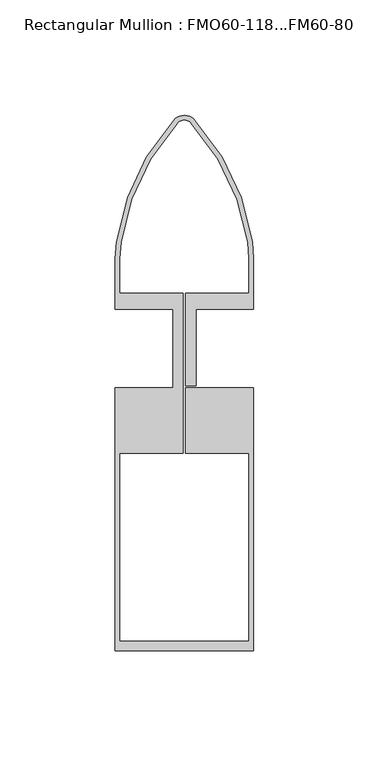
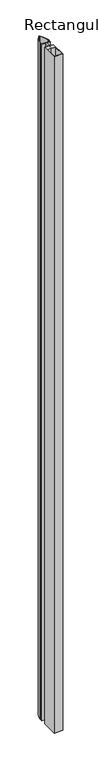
"""IFC4 building model written with IfcOpenShell, lengths in millimetres: member geometry, Rectangular Mullion : FMO60-118...FM60-80."""

from ifc_helpers import new_model, si_unit, frame, origin, place, context, project, spatial, polyline, circle_curve, source, transform, mapped, element, save
from ifc_brep_helpers import plane_surface, cylinder_surface, revolved_surface, advanced_brep


def rectangular_mullion_fmo60_118_fm60_80_52852f34(model_context):
    return source(origin(), model_context, "Body", "AdvancedBrep", [
        advanced_brep(
        [(4.7233463, 98.6502996, 0.0), (0.0, 100.9502996, 0.0), (-4.7233463, 98.6502996, 0.0), (-29.4612692, 46.2333488, 0.0), (-30.0, 38.9133183, 0.0), (-30.0, 17.0, 0.0), (-5.0, 17.0, 0.0), (-5.0, -17.0, 0.0), (-30.0, -17.0, 0.0), (-30.0, -131.009342, 0.0), (30.0, -131.009342, 0.0), (30.0, -17.0, 0.0), (0.5, -17.0, 0.0), (0.5, -45.5034642, 0.0), (28.0, -45.5034642, 0.0), (28.0, -127.009342, 0.0), (-28.0, -127.009342, 0.0), (-28.0, -45.5034642, 0.0), (-0.5, -45.5034642, 0.0), (-0.5, 23.8476589, 0.0), (-28.0000412, 23.8476589, 0.0), (-28.0000412, 38.9133183, 0.0), (-27.4828185, 45.9405476, 0.0), (-3.1488975, 97.4169663, 0.0), (0.0, 98.9502996, 0.0), (3.1488975, 97.4169663, 0.0), (27.4828185, 45.9405476, 0.0), (28.0, 38.9133183, 0.0), (28.0, 23.8476589, 0.0), (0.5, 23.8476589, 0.0), (0.5, -16.2, 0.0), (5.0, -16.2, 0.0), (5.0, 17.0, 0.0), (30.0, 17.0, 0.0), (30.0, 38.9133183, 0.0), (29.4612692, 46.2333488, 0.0), (4.7233463, 98.6502996, -5000.0), (29.4612692, 46.2333488, -5000.0), (30.0, 38.9133183, -5000.0), (30.0, 17.0, -5000.0), (5.0, 17.0, -5000.0), (5.0, -16.2, -5000.0), (0.5, -16.2, -5000.0), (0.5, 23.8476589, -5000.0), (28.0, 23.8476589, -5000.0), (28.0, 38.9133183, -5000.0), (27.4828185, 45.9405476, -5000.0), (3.1488975, 97.4169663, -5000.0), (0.0, 98.9502996, -5000.0), (-3.1488975, 97.4169663, -5000.0), (-27.4828185, 45.9405476, -5000.0), (-28.0, 38.9133183, -5000.0), (-28.0000412, 23.8476589, -5000.0), (-0.5, 23.8476589, -5000.0), (-0.5, -45.5034642, -5000.0), (-28.0, -45.5034642, -5000.0), (-28.0, -127.009342, -5000.0), (28.0, -127.009342, -5000.0), (28.0, -45.5034642, -5000.0), (0.5, -45.5034642, -5000.0), (0.5, -17.0, -5000.0), (30.0, -17.0, -5000.0), (30.0, -131.009342, -5000.0), (-30.0, -131.009342, -5000.0), (-30.0, -17.0, -5000.0), (-5.0, -17.0, -5000.0), (-5.0, 17.0, -5000.0), (-30.0, 17.0, -5000.0), (-30.0, 38.9133183, -5000.0), (-29.4612692, 46.2333488, -5000.0), (-4.7233463, 98.6502996, -5000.0), (0.0, 100.9502996, -5000.0)],
        [
            (0, 1, circle_curve(frame((0.0, 94.9502996, 0.0), z_axis=(0.0, 0.0, 1.0), x_axis=(0.7872243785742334, 0.616666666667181, 0.0)), 6.0)),
            (1, 2, circle_curve(frame((0.0, 94.9502996, 0.0), z_axis=(0.0, 0.0, 1.0), x_axis=(0.0, 1.0, 0.0)), 6.0)),
            (2, 3, circle_curve(frame((69.4612692, 31.5932879, 0.0), z_axis=(0.0, 0.0, 1.0), x_axis=(-0.7418461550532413, 0.6705701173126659, 0.0)), 100.0)),
            (3, 4, circle_curve(frame((20.0, 38.9133183, 0.0), z_axis=(0.0, 0.0, 1.0), x_axis=(-0.9892253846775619, 0.14640060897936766, 0.0)), 50.0)),
            (4, 5),
            (5, 6),
            (6, 7),
            (7, 8),
            (8, 9),
            (9, 10),
            (10, 11),
            (11, 12),
            (12, 13),
            (13, 14),
            (14, 15),
            (15, 16),
            (16, 17),
            (17, 18),
            (18, 19),
            (19, 20),
            (20, 21),
            (21, 22, circle_curve(frame((20.0, 38.9133183, 0.0), z_axis=(0.0, 0.0, -1.0), x_axis=(-1.0, 0.0, 0.0)), 48.0)),
            (22, 23, circle_curve(frame((69.5179996, 31.5761151, 0.0), z_axis=(0.0, 0.0, -1.0), x_axis=(-0.9892124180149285, 0.14648819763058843, 0.0)), 98.0586336)),
            (23, 24, circle_curve(frame((0.0, 94.9502996, 0.0), z_axis=(0.0, 0.0, -1.0), x_axis=(-0.7872243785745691, 0.6166666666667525, 0.0)), 4.0)),
            (24, 25, circle_curve(frame((0.0, 94.9502996, 0.0), z_axis=(0.0, 0.0, -1.0), x_axis=(0.0, 1.0, 0.0)), 4.0)),
            (25, 26, circle_curve(frame((-69.5179996, 31.5761151, 0.0), z_axis=(0.0, 0.0, -1.0), x_axis=(0.7410555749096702, 0.6714436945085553, 0.0)), 98.0586336)),
            (26, 27, circle_curve(frame((-20.0, 38.9133183, 0.0), z_axis=(0.0, 0.0, -1.0), x_axis=(0.9892253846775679, 0.1464006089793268, 0.0)), 48.0)),
            (27, 28),
            (28, 29),
            (29, 30),
            (30, 31),
            (31, 32),
            (32, 33),
            (33, 34),
            (34, 35, circle_curve(frame((-20.0, 38.9133183, 0.0), z_axis=(0.0, 0.0, 1.0), x_axis=(1.0, 0.0, 0.0)), 50.0)),
            (35, 0, circle_curve(frame((-69.4612692, 31.5932879, 0.0), z_axis=(0.0, 0.0, 1.0), x_axis=(0.9892253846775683, 0.14640060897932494, 0.0)), 100.0)),
            (36, 37, circle_curve(frame((-69.4612692, 31.5932879, -5000.0), z_axis=(0.0, 0.0, -1.0), x_axis=(0.9892253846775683, 0.14640060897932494, 0.0)), 100.0)),
            (37, 38, circle_curve(frame((-20.0, 38.9133183, -5000.0), z_axis=(0.0, 0.0, -1.0), x_axis=(1.0, 0.0, 0.0)), 50.0)),
            (38, 39),
            (39, 40),
            (40, 41),
            (41, 42),
            (42, 43),
            (43, 44),
            (44, 45),
            (45, 46, circle_curve(frame((-20.0, 38.9133183, -5000.0), z_axis=(0.0, 0.0, 1.0), x_axis=(0.9892253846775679, 0.1464006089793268, 0.0)), 48.0)),
            (46, 47, circle_curve(frame((-69.5179996, 31.5761151, -5000.0), z_axis=(0.0, 0.0, 1.0), x_axis=(0.7410555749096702, 0.6714436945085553, 0.0)), 98.0586336)),
            (47, 48, circle_curve(frame((0.0, 94.9502996, -5000.0), z_axis=(0.0, 0.0, 1.0), x_axis=(0.0, 1.0, 0.0)), 4.0)),
            (48, 49, circle_curve(frame((0.0, 94.9502996, -5000.0), z_axis=(0.0, 0.0, 1.0), x_axis=(-0.7872243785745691, 0.6166666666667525, 0.0)), 4.0)),
            (49, 50, circle_curve(frame((69.5179996, 31.5761151, -5000.0), z_axis=(0.0, 0.0, 1.0), x_axis=(-0.9892124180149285, 0.14648819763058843, 0.0)), 98.0586336)),
            (50, 51, circle_curve(frame((20.0, 38.9133183, -5000.0), z_axis=(0.0, 0.0, 1.0), x_axis=(-1.0, 0.0, 0.0)), 48.0)),
            (51, 52),
            (52, 53),
            (53, 54),
            (54, 55),
            (55, 56),
            (56, 57),
            (57, 58),
            (58, 59),
            (59, 60),
            (60, 61),
            (61, 62),
            (62, 63),
            (63, 64),
            (64, 65),
            (65, 66),
            (66, 67),
            (67, 68),
            (68, 69, circle_curve(frame((20.0, 38.9133183, -5000.0), z_axis=(0.0, 0.0, -1.0), x_axis=(-0.9892253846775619, 0.14640060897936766, 0.0)), 50.0)),
            (69, 70, circle_curve(frame((69.4612692, 31.5932879, -5000.0), z_axis=(0.0, 0.0, -1.0), x_axis=(-0.7418461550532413, 0.6705701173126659, 0.0)), 100.0)),
            (70, 71, circle_curve(frame((0.0, 94.9502996, -5000.0), z_axis=(0.0, 0.0, -1.0), x_axis=(0.0, 1.0, 0.0)), 6.0)),
            (71, 36, circle_curve(frame((0.0, 94.9502996, -5000.0), z_axis=(0.0, 0.0, -1.0), x_axis=(0.7872243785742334, 0.616666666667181, 0.0)), 6.0)),
            (0, 36),
            (71, 1),
            (70, 2),
            (69, 3),
            (68, 4),
            (67, 5),
            (66, 6),
            (65, 7),
            (64, 8),
            (63, 9),
            (62, 10),
            (61, 11),
            (60, 12),
            (59, 13),
            (58, 14),
            (57, 15),
            (56, 16),
            (55, 17),
            (54, 18),
            (53, 19),
            (52, 20),
            (51, 21),
            (50, 22),
            (49, 23),
            (48, 24),
            (47, 25),
            (46, 26),
            (45, 27),
            (44, 28),
            (43, 29),
            (42, 30),
            (41, 31),
            (40, 32),
            (39, 33),
            (38, 34),
            (37, 35),
        ],
        [
            plane_surface(frame((0.0, -134.4003263, 0.0), z_axis=(0.0, 0.0, 1.0), x_axis=(-1.0, 0.0, 0.0))),
            plane_surface(frame((0.0, -134.4003263, -5000.0), z_axis=(0.0, 0.0, -1.0), x_axis=(-1.0, 0.0, 0.0))),
            cylinder_surface(frame((0.0, 94.9502996, 0.0), z_axis=(0.0, 0.0, 1.0), x_axis=(0.7872243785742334, 0.616666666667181, 0.0)), 6.0),
            cylinder_surface(frame((0.0, 94.9502996, 0.0), z_axis=(0.0, 0.0, 1.0), x_axis=(0.0, 1.0, 0.0)), 6.0),
            cylinder_surface(frame((69.4612692, 31.5932879, 0.0), z_axis=(0.0, 0.0, 1.0000000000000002), x_axis=(-0.7418461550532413, 0.6705701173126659, 0.0)), 100.0),
            cylinder_surface(frame((20.0, 38.9133183, 0.0), z_axis=(0.0, 0.0, 1.0), x_axis=(-0.9892253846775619, 0.14640060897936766, 0.0)), 50.0),
            plane_surface(frame((-30.0, 38.9133183, 0.0), z_axis=(-1.0, 0.0, 0.0), x_axis=(0.0, 0.0, -1.0))),
            plane_surface(frame((-30.0, 17.0, 0.0), z_axis=(0.0, -1.0, 0.0), x_axis=(0.0, 0.0, -1.0))),
            plane_surface(frame((-5.0, 17.0, 0.0), z_axis=(-1.0, 0.0, 0.0), x_axis=(0.0, 0.0, -1.0))),
            plane_surface(frame((-5.0, -17.0, 0.0), z_axis=(0.0, 1.0, 0.0), x_axis=(0.0, 0.0, -1.0))),
            plane_surface(frame((-30.0, -17.0, 0.0), z_axis=(-1.0, 0.0, 0.0), x_axis=(0.0, 0.0, -1.0))),
            plane_surface(frame((-30.0, -131.009342, 0.0), z_axis=(0.0, -1.0, 0.0), x_axis=(0.0, 0.0, -1.0))),
            plane_surface(frame((30.0, -131.009342, 0.0), z_axis=(1.0, 0.0, 0.0), x_axis=(0.0, 0.0, -1.0))),
            plane_surface(frame((30.0, -17.0, 0.0), z_axis=(0.0, 1.0, 0.0), x_axis=(0.0, 0.0, -1.0))),
            plane_surface(frame((0.5, -17.0, 0.0), z_axis=(-1.0, 0.0, 0.0), x_axis=(0.0, 0.0, -1.0))),
            plane_surface(frame((0.5, -45.5034642, 0.0), z_axis=(0.0, -1.0, 0.0), x_axis=(0.0, 0.0, -1.0))),
            plane_surface(frame((28.0, -45.5034642, 0.0), z_axis=(-1.0, 0.0, 0.0), x_axis=(0.0, 0.0, -1.0))),
            plane_surface(frame((28.0, -127.009342, 0.0), z_axis=(0.0, 1.0, 0.0), x_axis=(0.0, 0.0, -1.0))),
            plane_surface(frame((-28.0, -127.009342, 0.0), z_axis=(1.0, 0.0, 0.0), x_axis=(0.0, 0.0, -1.0))),
            plane_surface(frame((-28.0, -45.5034642, 0.0), z_axis=(0.0, -1.0, 0.0), x_axis=(0.0, 0.0, -1.0))),
            plane_surface(frame((-0.5, -45.5034642, 0.0), z_axis=(1.0, 0.0, 0.0), x_axis=(0.0, 0.0, -1.0))),
            plane_surface(frame((-0.5, 23.8476589, 0.0), z_axis=(0.0, 1.0, 0.0), x_axis=(0.0, 0.0, -1.0))),
            plane_surface(frame((-28.0000412, 23.8476589, 0.0), z_axis=(1.0, 0.0, 0.0), x_axis=(0.0, 0.0, -1.0))),
            revolved_surface(polyline([(-28.0, 38.9133183, -5000.0), (-28.0, 38.9133183, 0.0)]), (20.0, 38.9133183, 0.0), (0.0, 0.0, -1.0)),
            revolved_surface(polyline([(-27.482818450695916, 45.940547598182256, -5000.0), (-27.482818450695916, 45.940547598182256, 0.0)]), (69.5179996, 31.5761151, 0.0), (0.0, 0.0, -1.0)),
            revolved_surface(polyline([(-3.1488975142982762, 97.416966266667, -5000.000000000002), (-3.1488975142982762, 97.416966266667, 0.0)]), (0.0, 94.9502996, 0.0), (0.0, 0.0, -1.0000000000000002)),
            revolved_surface(polyline([(0.0, 98.9502996, -5000.0), (0.0, 98.9502996, 0.0)]), (0.0, 94.9502996, 0.0), (0.0, 0.0, -1.0)),
            revolved_surface(polyline([(3.148897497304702, 97.41696632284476, -5000.0), (3.148897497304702, 97.41696632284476, 0.0)]), (-69.5179996, 31.5761151, 0.0), (0.0, 0.0, -1.0)),
            revolved_surface(polyline([(27.482818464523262, 45.94054753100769, -5000.0), (27.482818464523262, 45.94054753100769, 0.0)]), (-20.0, 38.9133183, 0.0), (0.0, 0.0, -1.0)),
            plane_surface(frame((28.0, 38.9133183, 0.0), z_axis=(-1.0, 0.0, 0.0), x_axis=(0.0, 0.0, -1.0))),
            plane_surface(frame((28.0, 23.8476589, 0.0), z_axis=(0.0, 1.0, 0.0), x_axis=(0.0, 0.0, -1.0))),
            plane_surface(frame((0.5, 23.8476589, 0.0), z_axis=(-1.0, 0.0, 0.0), x_axis=(0.0, 0.0, -1.0))),
            plane_surface(frame((0.5, -16.2, 0.0), z_axis=(0.0, -1.0, 0.0), x_axis=(0.0, 0.0, -1.0))),
            plane_surface(frame((5.0, -16.2, 0.0), z_axis=(1.0, 0.0, 0.0), x_axis=(0.0, 0.0, -1.0))),
            plane_surface(frame((5.0, 17.0, 0.0), z_axis=(0.0, -1.0, 0.0), x_axis=(0.0, 0.0, -1.0))),
            plane_surface(frame((30.0, 17.0, 0.0), z_axis=(1.0, 0.0, 0.0), x_axis=(0.0, 0.0, -1.0))),
            cylinder_surface(frame((-20.0, 38.9133183, 0.0), z_axis=(0.0, 0.0, 1.0), x_axis=(1.0, 0.0, 0.0)), 50.0),
            cylinder_surface(frame((-69.4612692, 31.5932879, 0.0), z_axis=(0.0, 0.0, 1.0), x_axis=(0.9892253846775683, 0.14640060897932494, 0.0)), 100.0),
        ],
        [
            (0, [[1, 2, 3, 4, 5, 6, 7, 8, 9, 10, 11, 12, 13, 14, 15, 16, 17, 18, 19, 20, 21, 22, 23, 24, 25, 26, 27, 28, 29, 30, 31, 32, 33, 34, 35, 36]]),
            (1, [[37, 38, 39, 40, 41, 42, 43, 44, 45, 46, 47, 48, 49, 50, 51, 52, 53, 54, 55, 56, 57, 58, 59, 60, 61, 62, 63, 64, 65, 66, 67, 68, 69, 70, 71, 72]]),
            (2, [[-1, 73, -72, 74]]),
            (3, [[-2, -74, -71, 75]]),
            (4, [[-3, -75, -70, 76]]),
            (5, [[-4, -76, -69, 77]]),
            (6, [[-5, -77, -68, 78]]),
            (7, [[-6, -78, -67, 79]]),
            (8, [[-7, -79, -66, 80]]),
            (9, [[-8, -80, -65, 81]]),
            (10, [[-9, -81, -64, 82]]),
            (11, [[-10, -82, -63, 83]]),
            (12, [[-11, -83, -62, 84]]),
            (13, [[-12, -84, -61, 85]]),
            (14, [[-13, -85, -60, 86]]),
            (15, [[-14, -86, -59, 87]]),
            (16, [[-15, -87, -58, 88]]),
            (17, [[-16, -88, -57, 89]]),
            (18, [[-17, -89, -56, 90]]),
            (19, [[-18, -90, -55, 91]]),
            (20, [[-19, -91, -54, 92]]),
            (21, [[-20, -92, -53, 93]]),
            (22, [[-21, -93, -52, 94]]),
            (23, [[-22, -94, -51, 95]]),
            (24, [[-23, -95, -50, 96]]),
            (25, [[-24, -96, -49, 97]]),
            (26, [[-25, -97, -48, 98]]),
            (27, [[-26, -98, -47, 99]]),
            (28, [[-27, -99, -46, 100]]),
            (29, [[-28, -100, -45, 101]]),
            (30, [[-29, -101, -44, 102]]),
            (31, [[-30, -102, -43, 103]]),
            (32, [[-31, -103, -42, 104]]),
            (33, [[-32, -104, -41, 105]]),
            (34, [[-33, -105, -40, 106]]),
            (35, [[-34, -106, -39, 107]]),
            (36, [[-35, -107, -38, 108]]),
            (37, [[-36, -108, -37, -73]]),
        ],
    ),
    ])


if __name__ == "__main__":
    model = new_model("IFC4")
    model_context = context("Model", 3, world=origin())
    ifc_project = project(units=[si_unit("LENGTHUNIT", "METRE", prefix="MILLI")], contexts=[model_context])
    site = spatial("IfcSite", under=ifc_project)
    building = spatial("IfcBuilding", under=site)
    placement = place(None, origin())
    rectangular_mullion_fmo60_118_fm60_80_shape = rectangular_mullion_fmo60_118_fm60_80_52852f34(model_context)
    element("IfcMember", 1, ObjectType="Rectangular Mullion : FMO60-118...FM60-80", at=placement, inside=building, context=model_context, shape_type="MappedRepresentation", body=[
        mapped(rectangular_mullion_fmo60_118_fm60_80_shape, transform((0.0, 0.0, 0.0), x_axis=(1.0, 0.0, 0.0), y_axis=(0.0, 1.0, 0.0), z_axis=(0.0, 0.0, 1.0))),
    ])
    save(model, "model.ifc")
